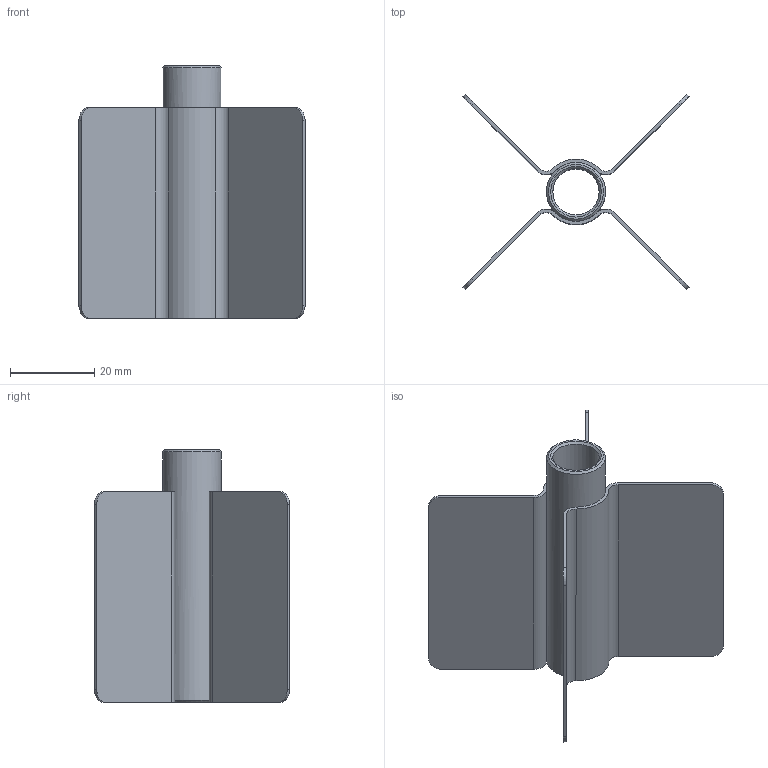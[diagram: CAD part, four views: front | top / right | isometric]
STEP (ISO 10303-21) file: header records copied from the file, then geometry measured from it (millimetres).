
FILE_DESCRIPTION(/* description */ (''),/* implementation_level */ '2;1');
FILE_NAME(/* name */ 'AC18-INOX.stp',/* time_stamp */ '2024-03-22T11:27:29+01:00',/* author */ ('filippo.guidetti'),/* organization */ (''),/* preprocessor_version */ 'ST-DEVELOPER v20',/* originating_system */ 'Autodesk Inventor 2024',/* authorisation */ '');
FILE_SCHEMA (('AUTOMOTIVE_DESIGN { 1 0 10303 214 3 1 1 }'));
Length unit declared in the file: millimetre
Products named in the file (1): AC18-INOX
Bounding box: 53.74 x 46.39 x 60 mm (x, y, z)
Volume: 9040.2 mm3; surface area: 16886.9 mm2
Topology: 1 solids, 1 shells, 49 faces, 139 edges, 92 vertices
Faces by surface type: cylinder 23, plane 22, cone 4
Full cylindrical faces by diameter (mm): 5.5 x1, 11 x1, 14 x1
Entity records: 1769 total; most frequent: CARTESIAN_POINT 326, DIRECTION 295, ORIENTED_EDGE 278, EDGE_CURVE 139, AXIS2_PLACEMENT_3D 111, VERTEX_POINT 92, LINE 73, VECTOR 73
